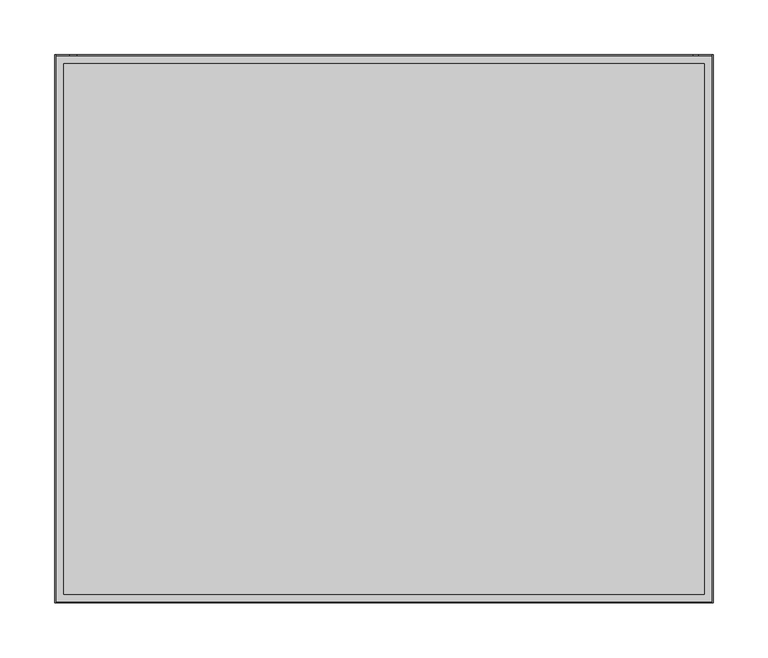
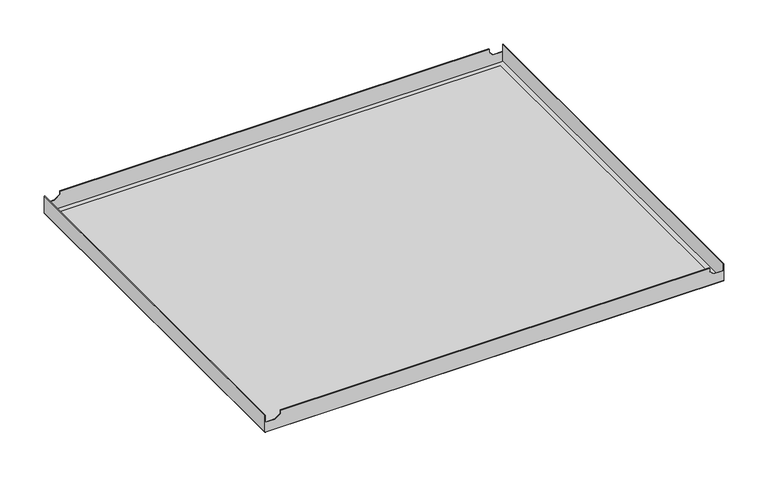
"""IFC4 building model written with IfcOpenShell, lengths in millimetres: proxy geometry, durlum_S1_panel : durlum_S1_panel_wall_width_cut."""

from ifc_helpers import new_model, si_unit, frame, origin, origin_with_axes, place, context, project, spatial, polyline, outline, extrude, faceted_brep, source, transform, mapped, element, save


def generic_models_0cb75665(model_context):
    return source(origin(), model_context, "Body", "SolidModel", [
        faceted_brep([(-300.0, 250.0, 23.5), (-300.0, -250.0, 23.5), (-299.4, -250.0, 23.5), (-299.4, 250.0, 23.5), (300.0, -250.0, 23.5), (300.0, 250.0, 23.5), (299.4, 250.0, 23.5), (299.4, -250.0, 23.5), (-279.4, 250.0, 23.5), (-279.4, 249.4, 23.5), (281.4, 249.4, 23.5), (281.4, 250.0, 23.5), (-279.4, -249.4, 23.5), (-279.4, -250.0, 23.5), (281.4, -250.0, 23.5), (281.4, -249.4, 23.5), (300.0, 250.0, 0.6), (300.0, -250.0, 0.6), (-300.0, -250.0, 0.6), (-300.0, 250.0, 0.6), (299.4, 249.4, 0.6), (-299.4, 249.4, 0.6), (-299.4, -249.4, 0.6), (299.4, -249.4, 0.6), (-299.4, 250.0, 13.6669893), (-286.6658218, 250.0, 13.6669893), (-279.4, 250.0, 18.9328111), (281.4, 250.0, 18.9469988), (286.6800094, 250.0, 13.6669893), (299.4, 250.0, 13.6669893), (299.4, -250.0, 13.6669893), (286.6800094, -250.0, 13.6669893), (281.4, -250.0, 18.9469988), (-279.4, -250.0, 18.9328111), (-286.6658218, -250.0, 13.6669893), (-299.4, -250.0, 13.6669893), (299.4, 249.4, 13.6669893), (299.4, -249.4, 13.6669893), (-299.4, -249.4, 13.6669893), (-286.6658218, -249.4, 13.6669893), (-279.4, -249.4, 18.9328111), (281.4, -249.4, 18.9469988), (286.6800094, -249.4, 13.6669893), (-299.4, 249.4, 13.6669893), (286.6800094, 249.4, 13.6669893), (281.4, 249.4, 18.9469988), (-279.4, 249.4, 18.9328111), (-286.6658218, 249.4, 13.6669893)], [[[0, 1, 2, 3]], [[4, 5, 6, 7]], [[8, 9, 10, 11]], [[12, 13, 14, 15]], [[16, 17, 18, 19], [20, 21, 22, 23]], [[16, 19, 0, 3, 24, 25, 26, 8, 11, 27, 28, 29, 6, 5]], [[1, 0, 19, 18]], [[18, 17, 4, 7, 30, 31, 32, 14, 13, 33, 34, 35, 2, 1]], [[5, 4, 17, 16]], [[6, 29, 36, 20, 23, 37, 30, 7]], [[23, 22, 38, 39, 40, 12, 15, 41, 42, 37]], [[22, 21, 43, 24, 3, 2, 35, 38]], [[21, 20, 36, 44, 45, 10, 9, 46, 47, 43]], [[38, 35, 34, 39]], [[24, 43, 47, 25]], [[39, 34, 33, 40]], [[25, 47, 46, 26]], [[40, 33, 13, 12]], [[26, 46, 9, 8]], [[36, 29, 28, 44]], [[30, 37, 42, 31]], [[44, 28, 27, 45]], [[31, 42, 41, 32]], [[32, 41, 15, 14]], [[45, 27, 11, 10]]]),
        extrude(outline(polyline([(292.0, 242.0), (292.0, -242.0), (-292.0, -242.0), (-292.0, 242.0), (292.0, 242.0)])), frame((0.0, 0.0, 0.6), z_axis=(0.0, 0.0, 1.0), x_axis=(1.0, 0.0, 0.0)), (0.0, 0.0, 1.0), 0.6),
        extrude(outline(polyline([(300.0, 250.0), (300.0, -250.0), (-300.0, -250.0), (-300.0, 250.0), (300.0, 250.0)]), holes=[polyline([(292.0, 242.0), (-292.0, 242.0), (-292.0, -242.0), (292.0, -242.0), (292.0, 242.0)])]), origin_with_axes(), (0.0, 0.0, 1.0), 0.6),
        extrude(outline(polyline([(292.0, 242.0), (292.0, -242.0), (-292.0, -242.0), (-292.0, 242.0), (292.0, 242.0)])), origin_with_axes(), (0.0, 0.0, 1.0), 0.6),
    ])


if __name__ == "__main__":
    model = new_model("IFC4")
    model_context = context("Model", 3, world=origin())
    ifc_project = project(units=[si_unit("LENGTHUNIT", "METRE", prefix="MILLI")], contexts=[model_context])
    site = spatial("IfcSite", under=ifc_project)
    building = spatial("IfcBuilding", under=site)
    placement = place(None, origin())
    generic_models_shape = generic_models_0cb75665(model_context)
    element("IfcBuildingElementProxy", 1, Name="durlum_S1_panel : durlum_S1_panel_wall_width_cut", ObjectType="durlum_S1_panel : durlum_S1_panel_wall_width_cut", at=placement, inside=building, context=model_context, shape_type="MappedRepresentation", body=[
        mapped(generic_models_shape, transform((0.0, 0.0, 0.0), x_axis=(1.0, 0.0, 0.0), y_axis=(0.0, 1.0, 0.0), z_axis=(0.0, 0.0, 1.0))),
    ])
    save(model, "model.ifc")
